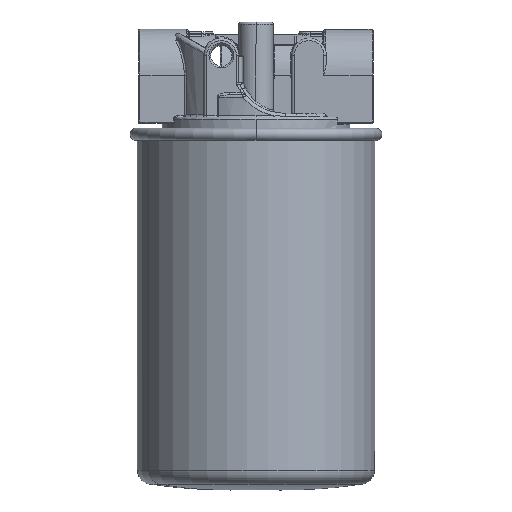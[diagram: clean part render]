
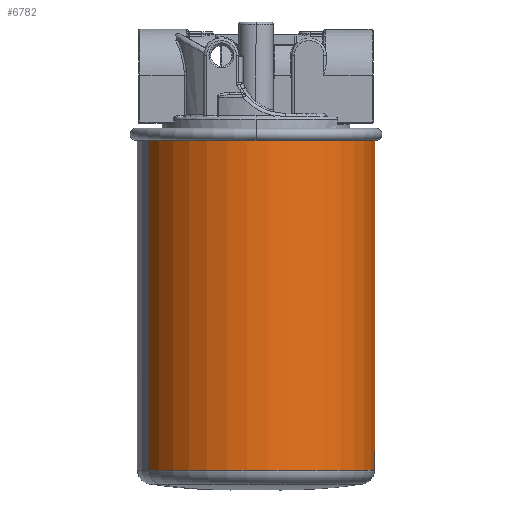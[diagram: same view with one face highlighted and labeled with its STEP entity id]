
A CAD part, left-side view. The second image highlights one B-rep face of the part: STEP entity #6782.
In plain terms, the highlighted cylindrical face has radius 48.15 mm (diameter 96.3 mm), a partial arc.
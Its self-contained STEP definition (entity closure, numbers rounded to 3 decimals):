
#213 = LINE ( 'NONE', #10954, #28992 ) ;
#725 = DIRECTION ( 'NONE',  ( 0., 0., -1. ) ) ;
#726 = CARTESIAN_POINT ( 'NONE',  ( 13.675, -63.356, -2.957 ) ) ;
#1063 = EDGE_CURVE ( 'NONE', #6918, #30931, #213, .T. ) ;
#1392 = CARTESIAN_POINT ( 'NONE',  ( 19.52, -60.991, -3.464 ) ) ;
#1736 = CARTESIAN_POINT ( 'NONE',  ( 10.169, -64.364, -3.46 ) ) ;
#1894 = VECTOR ( 'NONE', #33190, 1000. ) ;
#2223 = EDGE_CURVE ( 'NONE', #46366, #39655, #29520, .T. ) ;
#4476 = CARTESIAN_POINT ( 'NONE',  ( 17.896, -61.773, -2.96 ) ) ;
#4490 = ORIENTED_EDGE ( 'NONE', *, *, #16496, .T. ) ;
#5137 = ORIENTED_EDGE ( 'NONE', *, *, #33063, .F. ) ;
#5480 = CARTESIAN_POINT ( 'NONE',  ( 2.167, -65.763, -3.457 ) ) ;
#6218 = VERTEX_POINT ( 'NONE', #1392 ) ;
#6782 = ADVANCED_FACE ( 'NONE', ( #19431 ), #28293, .T. ) ;
#6810 = CARTESIAN_POINT ( 'NONE',  ( -22.251, 25.778, -137. ) ) ;
#6918 = VERTEX_POINT ( 'NONE', #34140 ) ;
#8911 = CARTESIAN_POINT ( 'NONE',  ( 19.52, -60.991, -2.96 ) ) ;
#10634 = CARTESIAN_POINT ( 'NONE',  ( -1.366, -17.607, -137. ) ) ;
#10703 = CARTESIAN_POINT ( 'NONE',  ( -1.452, -65.757, -3.202 ) ) ;
#10954 = CARTESIAN_POINT ( 'NONE',  ( -22.251, 25.778, -145. ) ) ;
#10987 = VERTEX_POINT ( 'NONE', #8911 ) ;
#11436 = B_SPLINE_CURVE_WITH_KNOTS ( 'NONE', 3,
 ( #27818, #46519, #42901, #20434, #46677, #24193, #1736, #27996, #5480, #31751 ),
 .UNSPECIFIED., .F., .F.,
 ( 4, 2, 2, 2, 4 ),
 ( 0.242, 0.247, 0.25, 0.253, 0.264 ),
 .UNSPECIFIED. ) ;
#11856 = CARTESIAN_POINT ( 'NONE',  ( -1.452, -65.757, -2.948 ) ) ;
#12877 = CARTESIAN_POINT ( 'NONE',  ( -1.366, -17.607, -2.15 ) ) ;
#14386 = DIRECTION ( 'NONE',  ( -0.434, 0.901, 0. ) ) ;
#14430 = CARTESIAN_POINT ( 'NONE',  ( -1.366, -17.607, -145. ) ) ;
#14748 = DIRECTION ( 'NONE',  ( 0., 0., -1. ) ) ;
#15571 = LINE ( 'NONE', #19577, #33239 ) ;
#15860 = ORIENTED_EDGE ( 'NONE', *, *, #1063, .T. ) ;
#16496 = EDGE_CURVE ( 'NONE', #39655, #10987, #42430, .T. ) ;
#16641 = DIRECTION ( 'NONE',  ( -0.434, 0.901, 0. ) ) ;
#17540 = EDGE_CURVE ( 'NONE', #6218, #46366, #11436, .T. ) ;
#18998 = AXIS2_PLACEMENT_3D ( 'NONE', #12877, #39150, #16641 ) ;
#19297 = VERTEX_POINT ( 'NONE', #36426 ) ;
#19422 = CARTESIAN_POINT ( 'NONE',  ( 10.181, -64.361, -2.955 ) ) ;
#19431 = FACE_OUTER_BOUND ( 'NONE', #19843, .T. ) ;
#19577 = CARTESIAN_POINT ( 'NONE',  ( 19.52, -60.991, -145. ) ) ;
#19843 = EDGE_LOOP ( 'NONE', ( #48655, #43927, #15860, #25169, #5137, #40935, #28039, #4490 ) ) ;
#20418 = CIRCLE ( 'NONE', #18998, 48.15 ) ;
#20434 = CARTESIAN_POINT ( 'NONE',  ( 13.67, -63.358, -3.462 ) ) ;
#22480 = AXIS2_PLACEMENT_3D ( 'NONE', #10634, #36922, #14386 ) ;
#23199 = CARTESIAN_POINT ( 'NONE',  ( 12.813, -63.631, -2.957 ) ) ;
#24193 = CARTESIAN_POINT ( 'NONE',  ( 11.054, -64.137, -3.461 ) ) ;
#24651 = VERTEX_POINT ( 'NONE', #42021 ) ;
#25169 = ORIENTED_EDGE ( 'NONE', *, *, #41461, .F. ) ;
#26980 = CARTESIAN_POINT ( 'NONE',  ( 19.52, -60.991, -145. ) ) ;
#26982 = CARTESIAN_POINT ( 'NONE',  ( 16.232, -62.462, -2.959 ) ) ;
#27818 = CARTESIAN_POINT ( 'NONE',  ( 19.52, -60.991, -3.464 ) ) ;
#27996 = CARTESIAN_POINT ( 'NONE',  ( 5.746, -65.367, -3.458 ) ) ;
#28039 = ORIENTED_EDGE ( 'NONE', *, *, #2223, .T. ) ;
#28293 = CYLINDRICAL_SURFACE ( 'NONE', #36887, 48.15 ) ;
#28992 = VECTOR ( 'NONE', #14748, 1000. ) ;
#29520 = LINE ( 'NONE', #10703, #1894 ) ;
#30736 = CARTESIAN_POINT ( 'NONE',  ( 19.52, -60.991, -2.96 ) ) ;
#30931 = VERTEX_POINT ( 'NONE', #6810 ) ;
#31672 = LINE ( 'NONE', #26980, #32866 ) ;
#31751 = CARTESIAN_POINT ( 'NONE',  ( -1.452, -65.757, -3.455 ) ) ;
#32866 = VECTOR ( 'NONE', #725, 1000. ) ;
#33063 = EDGE_CURVE ( 'NONE', #6218, #19297, #15571, .T. ) ;
#33154 = DIRECTION ( 'NONE',  ( 0., 0., -1. ) ) ;
#33190 = DIRECTION ( 'NONE',  ( 0., 0., 1. ) ) ;
#33239 = VECTOR ( 'NONE', #42068, 1000. ) ;
#34140 = CARTESIAN_POINT ( 'NONE',  ( -22.251, 25.778, -2.15 ) ) ;
#36426 = CARTESIAN_POINT ( 'NONE',  ( 19.52, -60.991, -137. ) ) ;
#36789 = DIRECTION ( 'NONE',  ( -0.434, 0.901, 0. ) ) ;
#36887 = AXIS2_PLACEMENT_3D ( 'NONE', #14430, #33154, #36789 ) ;
#36922 = DIRECTION ( 'NONE',  ( 0., 0., -1. ) ) ;
#39150 = DIRECTION ( 'NONE',  ( 0., 0., -1. ) ) ;
#39242 = EDGE_CURVE ( 'NONE', #24651, #10987, #31672, .T. ) ;
#39655 = VERTEX_POINT ( 'NONE', #45791 ) ;
#39867 = CIRCLE ( 'NONE', #22480, 48.15 ) ;
#40935 = ORIENTED_EDGE ( 'NONE', *, *, #17540, .T. ) ;
#41461 = EDGE_CURVE ( 'NONE', #19297, #30931, #39867, .T. ) ;
#41763 = CARTESIAN_POINT ( 'NONE',  ( 2.16, -65.763, -2.951 ) ) ;
#41901 = CARTESIAN_POINT ( 'NONE',  ( 5.742, -65.368, -2.953 ) ) ;
#42021 = CARTESIAN_POINT ( 'NONE',  ( 19.52, -60.991, -2.15 ) ) ;
#42068 = DIRECTION ( 'NONE',  ( 0., 0., -1. ) ) ;
#42366 = EDGE_CURVE ( 'NONE', #24651, #6918, #20418, .T. ) ;
#42430 = B_SPLINE_CURVE_WITH_KNOTS ( 'NONE', 3,
 ( #11856, #41763, #41901, #19422, #45681, #23199, #726, #26982, #4476, #30736 ),
 .UNSPECIFIED., .F., .F.,
 ( 4, 2, 2, 2, 4 ),
 ( 0.041, 0.052, 0.055, 0.058, 0.063 ),
 .UNSPECIFIED. ) ;
#42901 = CARTESIAN_POINT ( 'NONE',  ( 16.233, -62.462, -3.463 ) ) ;
#43113 = CARTESIAN_POINT ( 'NONE',  ( -1.452, -65.757, -3.455 ) ) ;
#43927 = ORIENTED_EDGE ( 'NONE', *, *, #42366, .T. ) ;
#45681 = CARTESIAN_POINT ( 'NONE',  ( 11.067, -64.133, -2.956 ) ) ;
#45791 = CARTESIAN_POINT ( 'NONE',  ( -1.452, -65.757, -2.948 ) ) ;
#46366 = VERTEX_POINT ( 'NONE', #43113 ) ;
#46519 = CARTESIAN_POINT ( 'NONE',  ( 17.898, -61.772, -3.464 ) ) ;
#46677 = CARTESIAN_POINT ( 'NONE',  ( 12.806, -63.633, -3.461 ) ) ;
#48655 = ORIENTED_EDGE ( 'NONE', *, *, #39242, .F. ) ;
